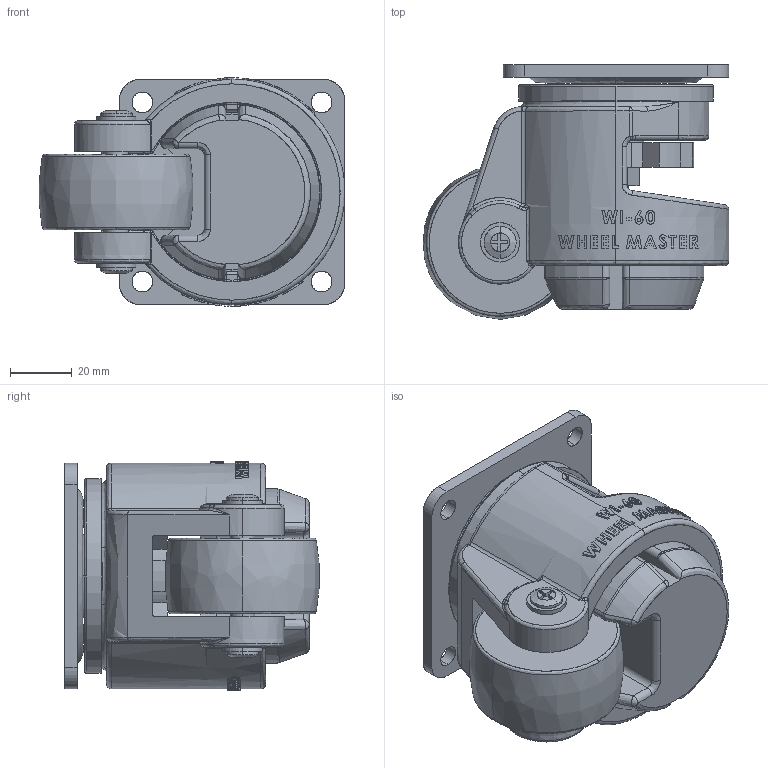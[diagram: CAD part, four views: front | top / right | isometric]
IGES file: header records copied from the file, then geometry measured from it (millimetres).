
Start section: SolidWorks IGES file using analytic representation for surfaces
Bounding box: 98.88 x 82.38 x 74 mm (x, y, z)
Surface area: 71897.5 mm2 (no closed solid volume)
Topology: 0 solids, 0 shells, 711 faces, 8726 edges, 8703 vertices
Faces by surface type: bspline 522, revolution 189
